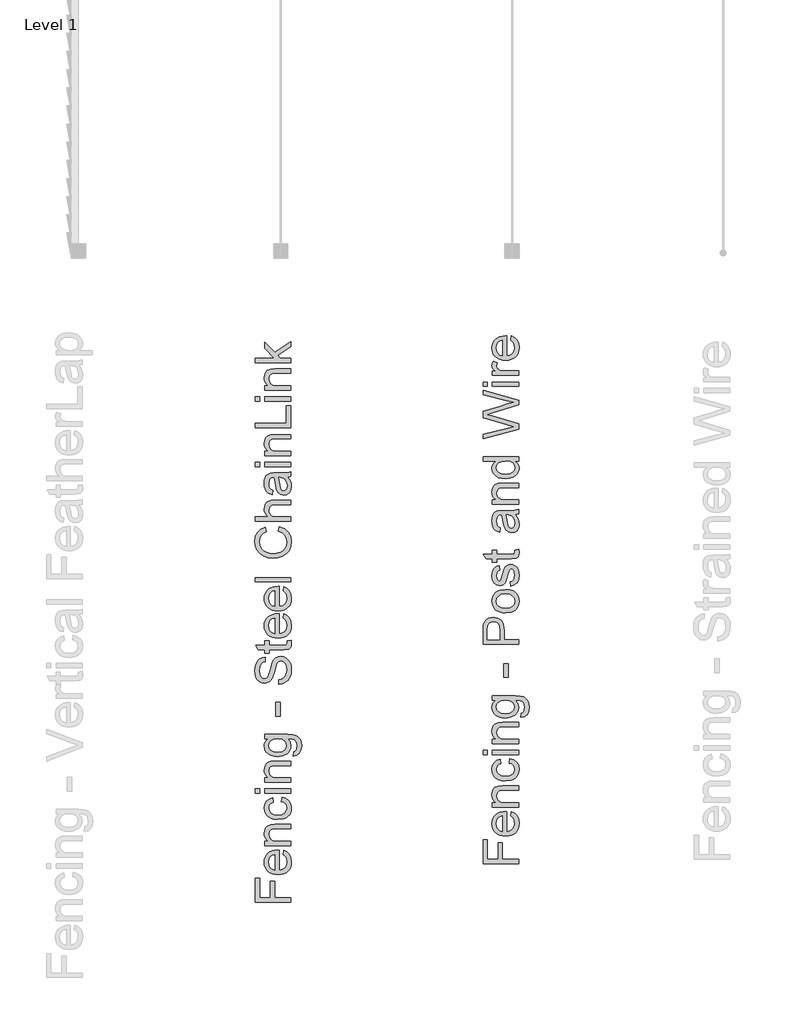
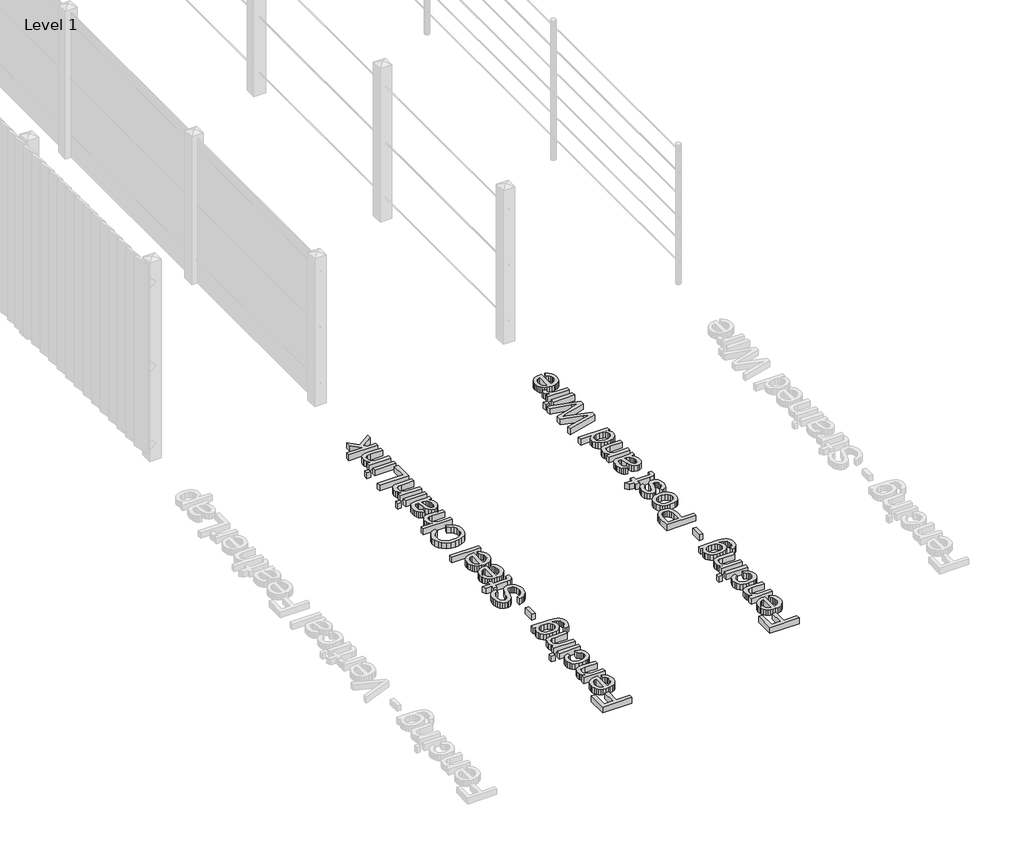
# One storey, part 5 of 7: 2 proxies.
"""IFC4 building model written with IfcOpenShell, lengths in millimetres."""

from ifc_helpers import new_model, si_unit, origin, origin_with_axes, place, context, project, spatial, polyline, outline, extrude, element, save

model = new_model("IFC4")

# Units and contexts
model_context = context("Model", 3, world=origin())
ifc_project = project(units=[si_unit("LENGTHUNIT", "METRE", prefix="MILLI")], contexts=[model_context])

# Site, building, storey
site = spatial("IfcSite", under=ifc_project)
building = spatial("IfcBuilding", under=site)
storey = spatial("IfcBuildingStorey", under=building, Name="Level 1", Elevation=0.0)

# Proxies
placement = place(None, origin())
element("IfcBuildingElementProxy", 1, Name="250mm Arial", ObjectType="250mm Arial", at=placement, inside=storey, context=model_context, shape_type="SweptSolid", body=[
    extrude(outline(polyline([(50542.9272953, -60664.7562343), (50296.7734491, -60664.7562343), (50296.7734491, -60499.3716189), (50327.5426799, -60499.3716189), (50327.5426799, -60633.9870036), (50400.619603, -60633.9870036), (50400.619603, -60518.6023882), (50431.3888337, -60518.6023882), (50431.3888337, -60633.9870036), (50542.9272953, -60633.9870036), (50542.9272953, -60664.7562343)])), origin_with_axes(), (0.0, 0.0, 1.0), 50.8),
    extrude(outline(polyline([(50489.0811414, -60334.3475805), (50492.9272953, -60304.1793113), (50515.6586655, -60315.0492031), (50532.650853, -60332.3944555), (50543.2428001, -60355.8244435), (50546.7734491, -60384.948542), (50545.2503872, -60404.0403389), (50540.6812015, -60421.0513064), (50533.065892, -60435.9814447), (50522.4044587, -60448.8307536), (50508.9936264, -60459.163536), (50493.1301198, -60466.5440949), (50474.8139389, -60470.9724302), (50454.0450837, -60472.448542), (50432.5719768, -60470.9574062), (50413.6454443, -60466.4839988), (50397.2654864, -60459.0283197), (50383.432103, -60448.5903689), (50372.4420188, -60435.7748641), (50364.5919587, -60421.1865228), (50359.8819227, -60404.8253449), (50358.3119107, -60386.6913305), (50359.8781667, -60369.1413756), (50364.5769347, -60353.2703569), (50372.4082147, -60339.0782746), (50383.3720068, -60326.5651286), (50397.1753422, -60316.3506604), (50413.525252, -60309.0546117), (50432.4217364, -60304.6769825), (50453.8647953, -60303.2177728), (50462.1580645, -60303.3980613), (50462.1580645, -60441.6793113), (50485.1899155, -60436.3532896), (50502.1220068, -60423.9809939), (50512.5336655, -60406.1249242), (50516.0042184, -60384.3475805), (50514.3966462, -60367.9713786), (50509.5739299, -60354.1793113), (50501.2355885, -60342.9713786), (50489.0811414, -60334.3475805)]), holes=[polyline([(50431.3888337, -60441.6793113), (50431.3888337, -60333.9870036), (50415.1328241, -60338.1486622), (50403.5042184, -60346.3067151), (50392.6869107, -60364.245417), (50389.0811414, -60386.8115228), (50391.9582448, -60407.5522079), (50400.5895549, -60424.7021478), (50414.0435813, -60436.6237223), (50431.3888337, -60441.6793113)])]), origin_with_axes(), (0.0, 0.0, 1.0), 50.8),
    extrude(outline(polyline([(50542.9272953, -60272.448542), (50362.1580645, -60272.448542), (50362.1580645, -60241.6793113), (50387.3984491, -60241.6793113), (50374.6730885, -60230.9897079), (50365.5835453, -60218.151667), (50360.1298193, -60203.1651887), (50358.3119107, -60186.0302728), (50364.1712857, -60156.9737824), (50370.947127, -60145.3902488), (50379.555901, -60137.1420516), (50402.182103, -60127.917292), (50431.9296991, -60126.2946959), (50542.9272953, -60126.2946959), (50542.9272953, -60157.0639266), (50436.0763337, -60157.0639266), (50408.852776, -60160.6095997), (50400.7473073, -60165.5149483), (50394.4597472, -60173.1396478), (50389.0811414, -60194.2634459), (50392.1009732, -60212.28478), (50401.1604684, -60227.6468593), (50418.6634732, -60238.1711983), (50447.0138337, -60241.6793113), (50542.9272953, -60241.6793113), (50542.9272953, -60272.448542)])), origin_with_axes(), (0.0, 0.0, 1.0), 50.8),
    extrude(outline(polyline([(50477.5426799, -59968.6023882), (50481.3888337, -59937.8331574), (50508.7551198, -59946.4118834), (50529.4357087, -59962.5326766), (50542.439014, -59984.6781093), (50546.7734491, -60011.3307536), (50545.2616553, -60028.5877397), (50540.7262736, -60044.0606213), (50533.1673043, -60057.7493984), (50522.5847472, -60069.6540709), (50509.1776709, -60079.2901135), (50493.1451438, -60086.1730012), (50453.2037376, -60091.6793113), (50425.8224275, -60089.3280492), (50402.0919587, -60082.2742632), (50382.9287977, -60070.4052728), (50369.2494107, -60053.6083978), (50361.0462857, -60033.5137463), (50358.3119107, -60011.7514266), (50362.0679203, -59985.7523281), (50373.3359491, -59964.9665709), (50391.5150357, -59950.0552127), (50416.0042184, -59941.6793113), (50419.8503722, -59972.448542), (50406.4263938, -59978.0299723), (50396.8034972, -59986.7213786), (50391.0117304, -59998.0419915), (50389.0811414, -60011.511042), (50392.8822232, -60031.3953569), (50404.2854684, -60047.1781093), (50423.9068626, -60057.4770877), (50452.3623914, -60060.9100805), (50481.2010333, -60057.5522079), (50500.8900357, -60047.4785901), (50512.2256727, -60031.9812944), (50516.0042184, -60012.3523882), (50513.6454443, -59996.4193954), (50506.5691222, -59983.3559939), (50494.5949635, -59973.8532896), (50477.5426799, -59968.6023882)])), origin_with_axes(), (0.0, 0.0, 1.0), 50.8),
    extrude(outline(polyline([(50327.5426799, -59910.9100805), (50296.7734491, -59910.9100805), (50296.7734491, -59880.1408497), (50327.5426799, -59880.1408497), (50327.5426799, -59910.9100805)])), origin_with_axes(), (0.0, 0.0, 1.0), 50.8),
    extrude(outline(polyline([(50542.9272953, -59910.9100805), (50362.1580645, -59910.9100805), (50362.1580645, -59880.1408497), (50542.9272953, -59880.1408497), (50542.9272953, -59910.9100805)])), origin_with_axes(), (0.0, 0.0, 1.0), 50.8),
    extrude(outline(polyline([(50542.9272953, -59833.9870036), (50362.1580645, -59833.9870036), (50362.1580645, -59803.2177728), (50387.3984491, -59803.2177728), (50374.6730885, -59792.5281694), (50365.5835453, -59779.6901286), (50360.1298193, -59764.7036502), (50358.3119107, -59747.5687343), (50364.1712857, -59718.5122439), (50370.947127, -59706.9287103), (50379.555901, -59698.6805132), (50402.182103, -59689.4557536), (50431.9296991, -59687.8331574), (50542.9272953, -59687.8331574), (50542.9272953, -59718.6023882), (50436.0763337, -59718.6023882), (50408.852776, -59722.1480613), (50400.7473073, -59727.0534098), (50394.4597472, -59734.6781093), (50389.0811414, -59755.8019074), (50392.1009732, -59773.8232415), (50401.1604684, -59789.1853209), (50418.6634732, -59799.7096598), (50447.0138337, -59803.2177728), (50542.9272953, -59803.2177728), (50542.9272953, -59833.9870036)])), origin_with_axes(), (0.0, 0.0, 1.0), 50.8),
    extrude(outline(polyline([(50558.3119107, -59653.2177728), (50562.1580645, -59622.448542), (50571.7734491, -59619.0531093), (50578.384026, -59612.4725805), (50583.5222472, -59599.5368834), (50585.2349876, -59582.604792), (50583.2968866, -59564.5458978), (50577.4825837, -59551.1144074), (50568.1676799, -59541.7995036), (50555.727776, -59536.0903689), (50519.8503722, -59533.9870036), (50537.1580645, -59555.651667), (50542.9272953, -59582.0639266), (50541.248359, -59598.9340438), (50536.2115501, -59613.7871838), (50527.8168686, -59626.6233467), (50516.0643145, -59637.4425324), (50486.5270549, -59652.1585781), (50451.6412376, -59657.0639266), (50426.79899, -59654.862905), (50403.9549395, -59648.2598401), (50384.5964659, -59637.4876045), (50370.2109491, -59622.7790709), (50361.2866703, -59604.6375444), (50358.3119107, -59583.5663305), (50359.994603, -59569.1770576), (50365.0426799, -59556.1174122), (50373.4561414, -59544.3873942), (50385.2349876, -59533.9870036), (50362.1580645, -59533.9870036), (50362.1580645, -59503.2177728), (50518.227776, -59503.2177728), (50554.2629323, -59505.3211382), (50577.993401, -59511.6312343), (50593.7310813, -59522.5011262), (50605.7878722, -59538.2838786), (50613.4501318, -59558.6339387), (50616.0042184, -59583.2057536), (50612.4059611, -59611.8340588), (50601.6111895, -59634.3776286), (50583.5898554, -59648.8382656), (50558.3119107, -59653.2177728)]), holes=[polyline([(50449.5378722, -59626.2946959), (50477.7605284, -59623.0119435), (50497.1640741, -59613.1636863), (50508.4095669, -59598.3574963), (50512.1580645, -59580.2009459), (50508.432103, -59562.1796117), (50497.2542184, -59547.2983016), (50478.0985693, -59537.3148281), (50450.4393145, -59533.9870036), (50423.7641342, -59537.4124843), (50404.555901, -59547.6889266), (50392.9498313, -59562.7880853), (50389.0811414, -59580.6817151), (50392.8897352, -59598.2523281), (50404.3155164, -59612.9833978), (50423.2382929, -59622.9668713), (50449.5378722, -59626.2946959)])]), origin_with_axes(), (0.0, 0.0, 1.0), 50.8),
    extrude(outline(polyline([(50469.8503722, -59376.2946959), (50439.0811414, -59376.2946959), (50439.0811414, -59280.1408497), (50469.8503722, -59280.1408497), (50469.8503722, -59376.2946959)])), origin_with_axes(), (0.0, 0.0, 1.0), 50.8),
    extrude(outline(polyline([(50542.9272953, -59145.5254651), (50296.7734491, -59145.5254651), (50296.7734491, -59054.2995036), (50299.1171991, -59017.5206574), (50303.4967063, -59001.1219194), (50310.6256126, -58987.6228209), (50320.8269347, -58976.752929), (50334.4236895, -58968.2418113), (50350.4618506, -58962.7430132), (50367.9873914, -58960.9100805), (50396.9988097, -58965.8605012), (50421.1724876, -58980.7117632), (50430.6902159, -58992.6051676), (50437.4885934, -59008.4836983), (50441.5676198, -59028.3473551), (50442.9272953, -59052.1961382), (50442.9272953, -59114.7562343), (50542.9272953, -59114.7562343), (50542.9272953, -59145.5254651)]), holes=[polyline([(50412.1580645, -59114.7562343), (50412.1580645, -59050.3932536), (50409.3335453, -59023.1095997), (50400.8599876, -59005.0807536), (50387.2632328, -58995.0296718), (50369.0691222, -58991.6793113), (50355.2470068, -58993.6549723), (50343.588353, -58999.5819555), (50334.8143145, -59008.7240829), (50329.6460453, -59020.3451766), (50327.5426799, -59051.1144074), (50327.5426799, -59114.7562343), (50412.1580645, -59114.7562343)])]), origin_with_axes(), (0.0, 0.0, 1.0), 50.8),
    extrude(outline(polyline([(50452.5426799, -58930.1408497), (50429.131472, -58928.4769375), (50408.9579443, -58923.4852007), (50392.022097, -58915.1656394), (50378.3239299, -58903.5182536), (50363.3149155, -58878.8487824), (50358.3119107, -58849.3115228), (50359.8349726, -58832.3362373), (50364.4041583, -58816.987304), (50372.0194678, -58803.2647229), (50382.680901, -58791.1684939), (50396.0278812, -58781.2958227), (50411.6998313, -58774.2439146), (50450.0186414, -58768.6023882), (50481.103377, -58771.0963786), (50504.7662376, -58778.5783497), (50522.4870909, -58790.8304531), (50535.7458049, -58807.6348401), (50544.0165381, -58827.5942752), (50546.7734491, -58849.3115228), (50545.2560212, -58866.5347049), (50540.7037376, -58882.0263665), (50533.1165982, -58895.7865078), (50522.494603, -58907.8151286), (50509.0180405, -58917.5826316), (50492.8671991, -58924.5594194), (50452.5426799, -58930.1408497)]), holes=[polyline([(50452.4825837, -58899.3716189), (50480.329639, -58895.8109218), (50500.1688818, -58885.1288305), (50512.0453842, -58869.0531093), (50516.0042184, -58849.3115228), (50512.0228482, -58829.6600805), (50500.0787376, -58813.6144074), (50479.9765741, -58802.9323161), (50451.5210453, -58799.3716189), (50424.4852881, -58802.9548521), (50404.916478, -58813.7045516), (50393.0399756, -58829.7727608), (50389.0811414, -58849.3115228), (50393.0249515, -58869.0531093), (50404.8563818, -58885.1288305), (50424.6505525, -58895.8109218), (50452.4825837, -58899.3716189)])]), origin_with_axes(), (0.0, 0.0, 1.0), 50.8),
    extrude(outline(polyline([(50489.0811414, -58745.5254651), (50485.2349876, -58714.7562343), (50498.3960453, -58709.9034699), (50508.071526, -58700.5134459), (50514.0210453, -58686.5260661), (50516.0042184, -58667.8812343), (50514.1863097, -58649.4617632), (50508.7325837, -58636.511042), (50500.8299395, -58628.8487824), (50491.665276, -58626.2946959), (50483.822728, -58628.8638064), (50477.8431607, -58636.5711382), (50469.0691222, -58668.2418113), (50454.0150357, -58714.5759459), (50446.4504323, -58726.3022079), (50436.4369107, -58734.7983016), (50424.6129924, -58739.9590588), (50411.6171991, -58741.6793113), (50388.6905164, -58736.1504651), (50371.1724876, -58721.0663305), (50362.0679203, -58701.5050324), (50358.3119107, -58675.0326766), (50359.8218265, -58655.0056334), (50364.3515741, -58637.5927728), (50371.4579443, -58623.5903689), (50380.697728, -58613.7946959), (50392.7545188, -58607.3043113), (50408.3119107, -58603.2177728), (50412.1580645, -58633.9870036), (50402.4750717, -58637.8707175), (50395.180901, -58645.5555132), (50390.6060813, -58657.1165108), (50389.0811414, -58672.6288305), (50390.5384732, -58690.2970997), (50394.9104684, -58702.0759459), (50401.2205645, -58708.7015468), (50408.4921991, -58710.9100805), (50417.446526, -58707.2442151), (50424.2373914, -58695.7658497), (50430.7878722, -58669.2634459), (50445.2710453, -58624.1011863), (50452.197127, -58612.1720997), (50461.6772953, -58603.1276286), (50473.7415982, -58597.426006), (50488.4200837, -58595.5254651), (50503.5943626, -58597.7565348), (50517.8671991, -58604.4497439), (50530.1193025, -58615.3496838), (50539.2313818, -58630.2009459), (50544.8879323, -58648.1396478), (50546.7734491, -58668.3019074), (50543.1376318, -58699.3265468), (50532.2301799, -58721.9677728), (50514.1712857, -58737.0819555), (50489.0811414, -58745.5254651)])), origin_with_axes(), (0.0, 0.0, 1.0), 50.8),
    extrude(outline(polyline([(50517.2662376, -58495.5254651), (50543.8287376, -58491.6793113), (50546.7734491, -58514.6961382), (50545.4964059, -58529.464768), (50541.665276, -58540.4773882), (50528.2638337, -58553.3379651), (50493.3479684, -58557.0639266), (50392.9272953, -58557.0639266), (50392.9272953, -58580.1408497), (50362.1580645, -58580.1408497), (50362.1580645, -58557.0639266), (50318.227776, -58557.0639266), (50300.1388337, -58526.2946959), (50362.1580645, -58526.2946959), (50362.1580645, -58495.5254651), (50392.9272953, -58495.5254651), (50392.9272953, -58526.2946959), (50492.446526, -58526.2946959), (50508.3119107, -58524.6720997), (50513.930901, -58519.4136863), (50516.0042184, -58508.9269074), (50517.2662376, -58495.5254651)])), origin_with_axes(), (0.0, 0.0, 1.0), 50.8),
    extrude(outline(polyline([(50519.8503722, -58253.2177728), (50532.4555405, -58267.9187944), (50540.7037376, -58283.0555132), (50545.2560212, -58298.9734819), (50546.7734491, -58316.0182536), (50543.1226078, -58341.7318954), (50532.1700837, -58360.6997439), (50515.5384732, -58372.3959579), (50494.8503722, -58376.2946959), (50470.5114299, -58370.4052728), (50452.8431607, -58354.9305132), (50442.7470068, -58333.386042), (50438.119603, -58306.7634459), (50427.5426799, -58253.3980613), (50420.6917184, -58253.2177728), (50406.9597472, -58255.3361622), (50397.9753722, -58261.6913305), (50391.3046991, -58275.9040709), (50389.0811414, -58295.7057536), (50390.5610092, -58314.0350805), (50395.0006126, -58326.8355613), (50403.2112496, -58335.5645276), (50416.0042184, -58341.6793113), (50412.1580645, -58372.448542), (50395.3311414, -58367.1074963), (50382.1099876, -58359.1372439), (50371.9988097, -58347.7940949), (50364.5018145, -58332.3343593), (50359.8593866, -58313.4266069), (50358.3119107, -58291.7394074), (50359.6790982, -58270.9386262), (50363.7806607, -58254.4497439), (50369.9480284, -58242.0173521), (50377.5126318, -58233.386042), (50398.3960453, -58223.9509459), (50425.3191222, -58222.448542), (50463.6003722, -58222.448542), (50517.055901, -58220.886042), (50542.9272953, -58214.7562343), (50542.9272953, -58245.5254651), (50519.8503722, -58253.2177728)]), holes=[polyline([(50458.3119107, -58253.2177728), (50467.7470068, -58302.8571959), (50472.7349876, -58329.3295516), (50480.8479684, -58341.3187343), (50492.6869107, -58345.5254651), (50501.8365501, -58343.2342992), (50509.3335453, -58336.3608016), (50514.3365501, -58325.0552127), (50516.0042184, -58309.4677728), (50514.1637736, -58292.9413305), (50508.6424395, -58278.3379651), (50500.5069227, -58266.4990228), (50490.8239299, -58258.2658497), (50467.025853, -58253.3980613), (50458.3119107, -58253.2177728)])]), origin_with_axes(), (0.0, 0.0, 1.0), 50.8),
    extrude(outline(polyline([(50542.9272953, -58180.1408497), (50362.1580645, -58180.1408497), (50362.1580645, -58149.3716189), (50387.3984491, -58149.3716189), (50374.6730885, -58138.6820156), (50365.5835453, -58125.8439747), (50360.1298193, -58110.8574963), (50358.3119107, -58093.7225805), (50364.1712857, -58064.6660901), (50370.947127, -58053.0825564), (50379.555901, -58044.8343593), (50402.182103, -58035.6095997), (50431.9296991, -58033.9870036), (50542.9272953, -58033.9870036), (50542.9272953, -58064.7562343), (50436.0763337, -58064.7562343), (50408.852776, -58068.3019074), (50400.7473073, -58073.207256), (50394.4597472, -58080.8319555), (50389.0811414, -58101.9557536), (50392.1009732, -58119.9770877), (50401.1604684, -58135.339167), (50418.6634732, -58145.863506), (50447.0138337, -58149.3716189), (50542.9272953, -58149.3716189), (50542.9272953, -58180.1408497)])), origin_with_axes(), (0.0, 0.0, 1.0), 50.8),
    extrude(outline(polyline([(50542.9272953, -57880.1408497), (50513.900853, -57880.1408497), (50528.2826138, -57889.3468293), (50538.5553001, -57900.4984218), (50544.7189119, -57913.5956274), (50546.7734491, -57928.6384459), (50543.7986895, -57948.5302728), (50534.8744107, -57966.7394074), (50520.6241102, -57982.1540709), (50501.6712857, -57993.6624843), (50478.7821631, -58000.8289507), (50452.7229684, -58003.2177728), (50426.9867905, -58001.0167512), (50403.744603, -57994.4136863), (50384.3185212, -57983.4160901), (50370.0306607, -57968.0314747), (50361.2415982, -57949.4242031), (50358.3119107, -57928.7586382), (50360.407764, -57913.7045516), (50366.6953241, -57900.3932536), (50376.3332448, -57889.1102007), (50388.4801799, -57880.1408497), (50296.7734491, -57880.1408497), (50296.7734491, -57849.3716189), (50542.9272953, -57849.3716189), (50542.9272953, -57880.1408497)]), holes=[polyline([(50452.602776, -57972.448542), (50480.4348073, -57968.9779891), (50500.228978, -57958.5663305), (50512.0604083, -57943.4371238), (50516.0042184, -57925.8139266), (50512.2406967, -57908.1982415), (50500.9501318, -57893.4521478), (50481.9221871, -57883.4686742), (50454.946526, -57880.1408497), (50425.4543385, -57883.5287704), (50405.0066222, -57893.6925324), (50393.0625116, -57908.8142271), (50389.0811414, -57927.0759459), (50392.9047592, -57944.8794314), (50404.3756126, -57959.4677728), (50424.079639, -57969.2033497), (50452.602776, -57972.448542)])]), origin_with_axes(), (0.0, 0.0, 1.0), 50.8),
    extrude(outline(polyline([(50542.9272953, -57659.167292), (50296.7734491, -57726.2946959), (50296.7734491, -57694.5639266), (50458.5522953, -57655.6216189), (50508.4921991, -57643.6023882), (50464.321526, -57630.7418113), (50296.7734491, -57581.9437343), (50296.7734491, -57536.2105613), (50418.227776, -57500.7538305), (50463.2998914, -57485.5645276), (50508.4921991, -57474.3716189), (50459.994603, -57462.7129651), (50296.7734491, -57423.4100805), (50296.7734491, -57391.6793113), (50542.9272953, -57458.8668113), (50542.9272953, -57491.7394074), (50353.0234491, -57550.7538305), (50326.5210453, -57558.9870036), (50358.432103, -57568.2418113), (50542.9272953, -57622.0278689), (50542.9272953, -57659.167292)])), origin_with_axes(), (0.0, 0.0, 1.0), 50.8),
    extrude(outline(polyline([(50327.5426799, -57364.7562343), (50296.7734491, -57364.7562343), (50296.7734491, -57333.9870036), (50327.5426799, -57333.9870036), (50327.5426799, -57364.7562343)])), origin_with_axes(), (0.0, 0.0, 1.0), 50.8),
    extrude(outline(polyline([(50542.9272953, -57364.7562343), (50362.1580645, -57364.7562343), (50362.1580645, -57333.9870036), (50542.9272953, -57333.9870036), (50542.9272953, -57364.7562343)])), origin_with_axes(), (0.0, 0.0, 1.0), 50.8),
    extrude(outline(polyline([(50542.9272953, -57287.8331574), (50362.1580645, -57287.8331574), (50362.1580645, -57260.9100805), (50388.900853, -57260.9100805), (50373.3960453, -57250.964167), (50364.2614299, -57241.7995036), (50358.3119107, -57222.5687343), (50360.6857087, -57207.2442151), (50367.807103, -57191.6793113), (50395.3912376, -57201.9557536), (50389.0811414, -57223.5903689), (50390.5985693, -57232.7775685), (50395.150853, -57240.9882055), (50411.977776, -57252.0759459), (50447.915276, -57257.0639266), (50542.9272953, -57257.0639266), (50542.9272953, -57287.8331574)])), origin_with_axes(), (0.0, 0.0, 1.0), 50.8),
    extrude(outline(polyline([(50489.0811414, -57045.886042), (50492.9272953, -57015.7177728), (50515.6586655, -57026.5876646), (50532.650853, -57043.932917), (50543.2428001, -57067.362905), (50546.7734491, -57096.4870036), (50545.2503872, -57115.5788004), (50540.6812015, -57132.589768), (50533.065892, -57147.5199062), (50522.4044587, -57160.3692151), (50508.9936264, -57170.7019975), (50493.1301198, -57178.0825564), (50474.8139389, -57182.5108918), (50454.0450837, -57183.9870036), (50432.5719768, -57182.4958677), (50413.6454443, -57178.0224603), (50397.2654864, -57170.5667812), (50383.432103, -57160.1288305), (50372.4420188, -57147.3133257), (50364.5919587, -57132.7249843), (50359.8819227, -57116.3638064), (50358.3119107, -57098.229792), (50359.8781667, -57080.6798371), (50364.5769347, -57064.8088185), (50372.4082147, -57050.6167361), (50383.3720068, -57038.1035901), (50397.1753422, -57027.8891219), (50413.525252, -57020.5930733), (50432.4217364, -57016.2154441), (50453.8647953, -57014.7562343), (50462.1580645, -57014.9365228), (50462.1580645, -57153.2177728), (50485.1899155, -57147.8917512), (50502.1220068, -57135.5194555), (50512.5336655, -57117.6633858), (50516.0042184, -57095.886042), (50514.3966462, -57079.5098401), (50509.5739299, -57065.7177728), (50501.2355885, -57054.5098401), (50489.0811414, -57045.886042)]), holes=[polyline([(50431.3888337, -57153.2177728), (50431.3888337, -57045.5254651), (50415.1328241, -57049.6871238), (50403.5042184, -57057.8451766), (50392.6869107, -57075.7838786), (50389.0811414, -57098.3499843), (50391.9582448, -57119.0906694), (50400.5895549, -57136.2406093), (50414.0435813, -57148.1621838), (50431.3888337, -57153.2177728)])]), origin_with_axes(), (0.0, 0.0, 1.0), 50.8),
])
element("IfcBuildingElementProxy", 2, Name="250mm Arial", ObjectType="250mm Arial", at=placement, inside=storey, context=model_context, shape_type="SweptSolid", body=[
    extrude(outline(polyline([(48968.7739779, -60931.7081769), (48722.6201317, -60931.7081769), (48722.6201317, -60766.3235615), (48753.3893625, -60766.3235615), (48753.3893625, -60900.9389461), (48826.4662856, -60900.9389461), (48826.4662856, -60785.5543307), (48857.2355164, -60785.5543307), (48857.2355164, -60900.9389461), (48968.7739779, -60900.9389461), (48968.7739779, -60931.7081769)])), origin_with_axes(), (0.0, 0.0, 1.0), 50.8),
    extrude(outline(polyline([(48914.9278241, -60601.299523), (48918.7739779, -60571.1312538), (48941.5053481, -60582.0011456), (48958.4975356, -60599.346398), (48969.0894827, -60622.776386), (48972.6201317, -60651.9004846), (48971.0970698, -60670.9922814), (48966.5278842, -60688.003249), (48958.9125747, -60702.9333872), (48948.2511414, -60715.7826961), (48934.840309, -60726.1154786), (48918.9768024, -60733.4960375), (48900.6606215, -60737.9243728), (48879.8917664, -60739.4004846), (48858.4186594, -60737.9093487), (48839.4921269, -60733.4359413), (48823.112169, -60725.9802622), (48809.2787856, -60715.5423115), (48798.2887015, -60702.7268067), (48790.4386414, -60688.1384653), (48785.7286053, -60671.7772875), (48784.1585933, -60653.643273), (48785.7248493, -60636.0933181), (48790.4236173, -60620.2222995), (48798.2548974, -60606.0302171), (48809.2186894, -60593.5170711), (48823.0220248, -60583.302603), (48839.3719346, -60576.0065543), (48858.268419, -60571.6289251), (48879.7114779, -60570.1697153), (48888.0047471, -60570.3500038), (48888.0047471, -60708.6312538), (48911.0365981, -60703.3052322), (48927.9686894, -60690.9329365), (48938.3803481, -60673.0768668), (48941.850901, -60651.299523), (48940.2433289, -60634.9233211), (48935.4206125, -60621.1312538), (48927.0822712, -60609.9233211), (48914.9278241, -60601.299523)]), holes=[polyline([(48857.2355164, -60708.6312538), (48857.2355164, -60600.9389461), (48840.9795067, -60605.1006048), (48829.350901, -60613.2586576), (48818.5335933, -60631.1973596), (48814.9278241, -60653.7634653), (48817.8049274, -60674.5041504), (48826.4362375, -60691.6540903), (48839.890264, -60703.5756649), (48857.2355164, -60708.6312538)])]), origin_with_axes(), (0.0, 0.0, 1.0), 50.8),
    extrude(outline(polyline([(48968.7739779, -60539.4004846), (48788.0047471, -60539.4004846), (48788.0047471, -60508.6312538), (48813.2451317, -60508.6312538), (48800.5197712, -60497.9416504), (48791.4302279, -60485.1036096), (48785.9765019, -60470.1171312), (48784.1585933, -60452.9822153), (48790.0179683, -60423.925725), (48796.7938096, -60412.3421913), (48805.4025837, -60404.0939942), (48828.0287856, -60394.8692346), (48857.7763817, -60393.2466384), (48968.7739779, -60393.2466384), (48968.7739779, -60424.0158692), (48861.9230164, -60424.0158692), (48834.6994587, -60427.5615423), (48826.5939899, -60432.4668908), (48820.3064298, -60440.0915903), (48814.9278241, -60461.2153884), (48817.9476558, -60479.2367225), (48827.007151, -60494.5988019), (48844.5101558, -60505.1231408), (48872.8605164, -60508.6312538), (48968.7739779, -60508.6312538), (48968.7739779, -60539.4004846)])), origin_with_axes(), (0.0, 0.0, 1.0), 50.8),
    extrude(outline(polyline([(48903.3893625, -60235.5543307), (48907.2355164, -60204.7851), (48934.6018024, -60213.3638259), (48955.2823914, -60229.4846192), (48968.2856967, -60251.6300519), (48972.6201317, -60278.2826961), (48971.1083379, -60295.5396823), (48966.5729563, -60311.0125639), (48959.0139869, -60324.7013409), (48948.4314298, -60336.6060134), (48935.0243535, -60346.2420561), (48918.9918265, -60353.1249437), (48879.0504202, -60358.6312538), (48851.6691101, -60356.2799918), (48827.9386414, -60349.2262057), (48808.7754803, -60337.3572153), (48795.0960933, -60320.5603403), (48786.8929683, -60300.4656889), (48784.1585933, -60278.7033692), (48787.9146029, -60252.7042706), (48799.1826317, -60231.9185134), (48817.3617183, -60217.0071552), (48841.850901, -60208.6312538), (48845.6970548, -60239.4004846), (48832.2730765, -60244.9819149), (48822.6501798, -60253.6733211), (48816.858413, -60264.9939341), (48814.9278241, -60278.4629846), (48818.7289058, -60298.3472995), (48830.132151, -60314.1300519), (48849.7535452, -60324.4290302), (48878.2090741, -60327.862023), (48907.0477159, -60324.5041504), (48926.7367183, -60314.4305326), (48938.0723553, -60298.933237), (48941.850901, -60279.3043307), (48939.4921269, -60263.3713379), (48932.4158048, -60250.3079365), (48920.4416462, -60240.8052322), (48903.3893625, -60235.5543307)])), origin_with_axes(), (0.0, 0.0, 1.0), 50.8),
    extrude(outline(polyline([(48753.3893625, -60177.862023), (48722.6201317, -60177.862023), (48722.6201317, -60147.0927923), (48753.3893625, -60147.0927923), (48753.3893625, -60177.862023)])), origin_with_axes(), (0.0, 0.0, 1.0), 50.8),
    extrude(outline(polyline([(48968.7739779, -60177.862023), (48788.0047471, -60177.862023), (48788.0047471, -60147.0927923), (48968.7739779, -60147.0927923), (48968.7739779, -60177.862023)])), origin_with_axes(), (0.0, 0.0, 1.0), 50.8),
    extrude(outline(polyline([(48968.7739779, -60100.9389461), (48788.0047471, -60100.9389461), (48788.0047471, -60070.1697153), (48813.2451317, -60070.1697153), (48800.5197712, -60059.480112), (48791.4302279, -60046.6420711), (48785.9765019, -60031.6555927), (48784.1585933, -60014.5206769), (48790.0179683, -59985.4641865), (48796.7938096, -59973.8806528), (48805.4025837, -59965.6324557), (48828.0287856, -59956.4076961), (48857.7763817, -59954.7851), (48968.7739779, -59954.7851), (48968.7739779, -59985.5543307), (48861.9230164, -59985.5543307), (48834.6994587, -59989.1000038), (48826.5939899, -59994.0053524), (48820.3064298, -60001.6300519), (48814.9278241, -60022.75385), (48817.9476558, -60040.7751841), (48827.007151, -60056.1372634), (48844.5101558, -60066.6616024), (48872.8605164, -60070.1697153), (48968.7739779, -60070.1697153), (48968.7739779, -60100.9389461)])), origin_with_axes(), (0.0, 0.0, 1.0), 50.8),
    extrude(outline(polyline([(48984.1585933, -59920.1697153), (48988.0047471, -59889.4004846), (48997.6201317, -59886.0050519), (49004.2307087, -59879.424523), (49009.3689298, -59866.4888259), (49011.0816702, -59849.5567346), (49009.1435692, -59831.4978403), (49003.3292664, -59818.06635), (48994.0143625, -59808.7514461), (48981.5744587, -59803.0423115), (48945.6970548, -59800.9389461), (48963.0047471, -59822.6036096), (48968.7739779, -59849.0158692), (48967.0950416, -59865.8859864), (48962.0582327, -59880.7391264), (48953.6635512, -59893.5752893), (48941.9109971, -59904.394475), (48912.3737375, -59919.1105206), (48877.4879202, -59924.0158692), (48852.6456726, -59921.8148475), (48829.8016221, -59915.2117826), (48810.4431486, -59904.4395471), (48796.0576317, -59889.7310134), (48787.1333529, -59871.589487), (48784.1585933, -59850.518273), (48785.8412856, -59836.1290002), (48790.8893625, -59823.0693548), (48799.3028241, -59811.3393367), (48811.0816702, -59800.9389461), (48788.0047471, -59800.9389461), (48788.0047471, -59770.1697153), (48944.0744587, -59770.1697153), (48980.1096149, -59772.2730807), (49003.8400837, -59778.5831769), (49019.577764, -59789.4530687), (49031.6345548, -59805.2358211), (49039.2968144, -59825.5858812), (49041.850901, -59850.1576961), (49038.2526438, -59878.7860014), (49027.4578721, -59901.3295711), (49009.436538, -59915.7902081), (48984.1585933, -59920.1697153)]), holes=[polyline([(48875.3845548, -59893.2466384), (48903.6072111, -59889.963886), (48923.0107567, -59880.1156288), (48934.2562495, -59865.3094389), (48938.0047471, -59847.1528884), (48934.2787856, -59829.1315543), (48923.100901, -59814.2502442), (48903.9452519, -59804.2667706), (48876.2859971, -59800.9389461), (48849.6108168, -59804.3644269), (48830.4025837, -59814.6408692), (48818.796514, -59829.7400278), (48814.9278241, -59847.6336576), (48818.7364178, -59865.2042706), (48830.1621991, -59879.9353403), (48849.0849755, -59889.9188139), (48875.3845548, -59893.2466384)])]), origin_with_axes(), (0.0, 0.0, 1.0), 50.8),
    extrude(outline(polyline([(48895.6970548, -59643.2466384), (48864.9278241, -59643.2466384), (48864.9278241, -59547.0927923), (48895.6970548, -59547.0927923), (48895.6970548, -59643.2466384)])), origin_with_axes(), (0.0, 0.0, 1.0), 50.8),
    extrude(outline(polyline([(48884.1585933, -59424.0158692), (48884.1585933, -59393.2466384), (48901.233413, -59389.7159894), (48914.9578721, -59383.330773), (48925.8503, -59373.3698355), (48934.429026, -59359.112023), (48939.9954322, -59341.6841384), (48941.850901, -59322.2129846), (48936.2319106, -59290.0615423), (48929.5612375, -59277.8995831), (48920.7871991, -59269.2983211), (48910.7135813, -59264.182636), (48900.1441702, -59262.4774076), (48880.9434491, -59267.5855807), (48873.3487976, -59275.3680326), (48866.9710933, -59288.4990423), (48855.2222952, -59333.300725), (48840.0480164, -59381.5278884), (48829.6964539, -59396.8448956), (48817.1513817, -59407.6997634), (48802.6832327, -59414.167612), (48786.5624394, -59416.3235615), (48768.5411053, -59413.6567947), (48751.7367183, -59405.6564942), (48737.4939298, -59392.5329966), (48727.1573914, -59374.4966384), (48720.8698313, -59352.846999), (48718.7739779, -59328.8836576), (48720.9674875, -59302.9221192), (48727.5480164, -59280.205773), (48738.3803481, -59261.5459173), (48753.3292664, -59247.75385), (48771.4632808, -59239.0248836), (48791.850901, -59235.5543307), (48791.850901, -59266.3235615), (48773.491526, -59271.9726), (48760.2403241, -59283.7514461), (48752.2174875, -59302.1558932), (48749.5432087, -59327.6817346), (48752.1874394, -59353.8085375), (48760.1201317, -59371.7322153), (48771.7938096, -59382.0988019), (48785.6609971, -59385.5543307), (48797.4849154, -59383.1054125), (48806.9951317, -59375.7586576), (48815.4987375, -59358.3908692), (48824.1826317, -59325.518273), (48839.6273433, -59271.0711576), (48850.7902039, -59253.5305927), (48864.5672471, -59241.2935134), (48880.8082327, -59234.104511), (48899.3629202, -59231.7081769), (48918.3307688, -59234.4650879), (48936.1718144, -59242.7358211), (48951.5263817, -59256.1823355), (48963.0347952, -59274.4665903), (48970.2237976, -59296.4542706), (48972.6201317, -59321.0110615), (48970.0359971, -59351.1567947), (48962.2835933, -59375.9689942), (48949.3328721, -59395.7331168), (48931.1537856, -59410.7346192), (48909.0083529, -59420.3650278), (48884.1585933, -59424.0158692)])), origin_with_axes(), (0.0, 0.0, 1.0), 50.8),
    extrude(outline(polyline([(48943.1129202, -59124.0158692), (48969.6754202, -59120.1697153), (48972.6201317, -59143.1865423), (48971.3430885, -59157.9551721), (48967.5119587, -59168.9677923), (48954.1105164, -59181.8283692), (48919.194651, -59185.5543307), (48818.7739779, -59185.5543307), (48818.7739779, -59208.6312538), (48788.0047471, -59208.6312538), (48788.0047471, -59185.5543307), (48744.0744587, -59185.5543307), (48725.9855164, -59154.7851), (48788.0047471, -59154.7851), (48788.0047471, -59124.0158692), (48818.7739779, -59124.0158692), (48818.7739779, -59154.7851), (48918.2932087, -59154.7851), (48934.1585933, -59153.1625038), (48939.7775837, -59147.9040903), (48941.850901, -59137.4173115), (48943.1129202, -59124.0158692)])), origin_with_axes(), (0.0, 0.0, 1.0), 50.8),
    extrude(outline(polyline([(48914.9278241, -58966.6841384), (48918.7739779, -58936.5158692), (48941.5053481, -58947.385761), (48958.4975356, -58964.7310134), (48969.0894827, -58988.1610014), (48972.6201317, -59017.2851), (48971.0970698, -59036.3768968), (48966.5278842, -59053.3878644), (48958.9125747, -59068.3180026), (48948.2511414, -59081.1673115), (48934.840309, -59091.5000939), (48918.9768024, -59098.8806528), (48900.6606215, -59103.3089882), (48879.8917664, -59104.7851), (48858.4186594, -59103.2939641), (48839.4921269, -59098.8205567), (48823.112169, -59091.3648776), (48809.2787856, -59080.9269269), (48798.2887015, -59068.1114221), (48790.4386414, -59053.5230807), (48785.7286053, -59037.1619028), (48784.1585933, -59019.0278884), (48785.7248493, -59001.4779335), (48790.4236173, -58985.6069149), (48798.2548974, -58971.4148325), (48809.2186894, -58958.9016865), (48823.0220248, -58948.6872183), (48839.3719346, -58941.3911697), (48858.268419, -58937.0135405), (48879.7114779, -58935.5543307), (48888.0047471, -58935.7346192), (48888.0047471, -59074.0158692), (48911.0365981, -59068.6898475), (48927.9686894, -59056.3175519), (48938.3803481, -59038.4614822), (48941.850901, -59016.6841384), (48940.2433289, -59000.3079365), (48935.4206125, -58986.5158692), (48927.0822712, -58975.3079365), (48914.9278241, -58966.6841384)]), holes=[polyline([(48857.2355164, -59074.0158692), (48857.2355164, -58966.3235615), (48840.9795067, -58970.4852201), (48829.350901, -58978.643273), (48818.5335933, -58996.581975), (48814.9278241, -59019.1480807), (48817.8049274, -59039.8887658), (48826.4362375, -59057.0387057), (48839.890264, -59068.9602802), (48857.2355164, -59074.0158692)])]), origin_with_axes(), (0.0, 0.0, 1.0), 50.8),
    extrude(outline(polyline([(48914.9278241, -58778.2226), (48918.7739779, -58748.0543307), (48941.5053481, -58758.9242225), (48958.4975356, -58776.269475), (48969.0894827, -58799.6994629), (48972.6201317, -58828.8235615), (48971.0970698, -58847.9153584), (48966.5278842, -58864.9263259), (48958.9125747, -58879.8564641), (48948.2511414, -58892.705773), (48934.840309, -58903.0385555), (48918.9768024, -58910.4191144), (48900.6606215, -58914.8474497), (48879.8917664, -58916.3235615), (48858.4186594, -58914.8324257), (48839.4921269, -58910.3590182), (48823.112169, -58902.9033391), (48809.2787856, -58892.4653884), (48798.2887015, -58879.6498836), (48790.4386414, -58865.0615423), (48785.7286053, -58848.7003644), (48784.1585933, -58830.56635), (48785.7248493, -58813.016395), (48790.4236173, -58797.1453764), (48798.2548974, -58782.9532941), (48809.2186894, -58770.440148), (48823.0220248, -58760.2256799), (48839.3719346, -58752.9296312), (48858.268419, -58748.552002), (48879.7114779, -58747.0927923), (48888.0047471, -58747.2730807), (48888.0047471, -58885.5543307), (48911.0365981, -58880.2283091), (48927.9686894, -58867.8560134), (48938.3803481, -58849.9999437), (48941.850901, -58828.2226), (48940.2433289, -58811.846398), (48935.4206125, -58798.0543307), (48927.0822712, -58786.846398), (48914.9278241, -58778.2226)]), holes=[polyline([(48857.2355164, -58885.5543307), (48857.2355164, -58777.862023), (48840.9795067, -58782.0236817), (48829.350901, -58790.1817346), (48818.5335933, -58808.1204365), (48814.9278241, -58830.6865423), (48817.8049274, -58851.4272274), (48826.4362375, -58868.5771673), (48839.890264, -58880.4987418), (48857.2355164, -58885.5543307)])]), origin_with_axes(), (0.0, 0.0, 1.0), 50.8),
    extrude(outline(polyline([(48968.7739779, -58716.3235615), (48722.6201317, -58716.3235615), (48722.6201317, -58685.5543307), (48968.7739779, -58685.5543307), (48968.7739779, -58716.3235615)])), origin_with_axes(), (0.0, 0.0, 1.0), 50.8),
    extrude(outline(polyline([(48881.2739779, -58366.3235615), (48889.2066702, -58335.5543307), (48925.061538, -58349.7520471), (48951.2559491, -58372.0326961), (48967.2790861, -58401.299523), (48972.6201317, -58436.455773), (48968.5786654, -58472.1453764), (48956.4542664, -58500.488225), (48936.6676077, -58522.2129846), (48909.6393625, -58538.0483211), (48877.8635212, -58547.7162899), (48843.8340741, -58550.9389461), (48807.9416462, -58547.2956168), (48776.9470548, -58536.3656288), (48751.8343745, -58518.7198956), (48733.5876798, -58494.9293307), (48722.4774034, -58466.7141865), (48718.7739779, -58435.7947153), (48723.5666462, -58402.058237), (48737.944651, -58374.1661096), (48761.0215741, -58352.9897274), (48791.9109971, -58339.4004846), (48799.2427279, -58370.1697153), (48776.8043265, -58380.8367826), (48761.4121991, -58395.4101), (48752.5104563, -58414.0699557), (48749.5432087, -58436.9966384), (48752.8334731, -58463.4239221), (48762.7042664, -58485.1336576), (48778.1189298, -58501.6075158), (48798.0408048, -58512.3271673), (48820.5618385, -58518.2090783), (48843.7739779, -58520.1697153), (48872.1994587, -58517.8485014), (48896.7787856, -58510.8848596), (48916.5729563, -58499.0158692), (48930.6429683, -58481.9786096), (48939.0489178, -58461.5534293), (48941.850901, -58439.5206769), (48938.0347952, -58413.8370831), (48926.5864779, -58392.4353403), (48907.6261414, -58376.276987), (48881.2739779, -58366.3235615)])), origin_with_axes(), (0.0, 0.0, 1.0), 50.8),
    extrude(outline(polyline([(48968.7739779, -58297.0927923), (48722.6201317, -58297.0927923), (48722.6201317, -58266.3235615), (48813.1249394, -58266.3235615), (48800.452163, -58255.0217286), (48791.4001798, -58242.3301721), (48785.9689899, -58228.248892), (48784.1585933, -58212.7778884), (48786.1342543, -58194.1931528), (48792.0612375, -58178.2226), (48801.4737976, -58165.6474798), (48813.9061894, -58157.2490423), (48830.9885212, -58152.5164701), (48854.350901, -58150.9389461), (48968.7739779, -58150.9389461), (48968.7739779, -58181.7081769), (48857.5359971, -58181.7081769), (48838.2751798, -58184.1570951), (48825.0840741, -58191.50385), (48817.4668866, -58203.3427923), (48814.9278241, -58219.268273), (48816.6405644, -58232.2715783), (48821.7787856, -58244.4786096), (48829.8466942, -58254.5897875), (48840.3484971, -58261.3055326), (48872.7403241, -58266.3235615), (48968.7739779, -58266.3235615), (48968.7739779, -58297.0927923)])), origin_with_axes(), (0.0, 0.0, 1.0), 50.8),
    extrude(outline(polyline([(48945.6970548, -57993.2466384), (48958.3022231, -58007.94766), (48966.5504202, -58023.0843788), (48971.1027039, -58039.0023475), (48972.6201317, -58056.0471192), (48968.9692904, -58081.760761), (48958.0167664, -58100.7286096), (48941.3851558, -58112.4248235), (48920.6970548, -58116.3235615), (48896.3581125, -58110.4341384), (48878.6898433, -58094.9593788), (48868.5936894, -58073.4149076), (48863.9662856, -58046.7923115), (48853.3893625, -57993.4269269), (48846.538401, -57993.2466384), (48832.8064298, -57995.3650278), (48823.8220548, -58001.7201961), (48817.1513817, -58015.9329365), (48814.9278241, -58035.7346192), (48816.4076918, -58054.0639461), (48820.8472952, -58066.8644269), (48829.0579322, -58075.5933932), (48841.850901, -58081.7081769), (48838.0047471, -58112.4774076), (48821.1778241, -58107.136362), (48807.9566702, -58099.1661096), (48797.8454923, -58087.8229605), (48790.3484971, -58072.363225), (48785.7060692, -58053.4554725), (48784.1585933, -58031.768273), (48785.5257808, -58010.9674918), (48789.6273433, -57994.4786096), (48795.7947111, -57982.0462177), (48803.3593144, -57973.4149076), (48824.2427279, -57963.9798115), (48851.1658048, -57962.4774076), (48889.4470548, -57962.4774076), (48942.9025837, -57960.9149076), (48968.7739779, -57954.7851), (48968.7739779, -57985.5543307), (48945.6970548, -57993.2466384)]), holes=[polyline([(48884.1585933, -57993.2466384), (48893.5936894, -58042.8860615), (48898.5816702, -58069.3584173), (48906.694651, -58081.3476), (48918.5335933, -58085.5543307), (48927.6832327, -58083.2631649), (48935.1802279, -58076.3896673), (48940.1832327, -58065.0840783), (48941.850901, -58049.4966384), (48940.0104563, -58032.9701961), (48934.4891221, -58018.3668307), (48926.3536053, -58006.5278884), (48916.6706125, -57998.2947153), (48892.8725356, -57993.4269269), (48884.1585933, -57993.2466384)])]), origin_with_axes(), (0.0, 0.0, 1.0), 50.8),
    extrude(outline(polyline([(48753.3893625, -57920.1697153), (48722.6201317, -57920.1697153), (48722.6201317, -57889.4004846), (48753.3893625, -57889.4004846), (48753.3893625, -57920.1697153)])), origin_with_axes(), (0.0, 0.0, 1.0), 50.8),
    extrude(outline(polyline([(48968.7739779, -57920.1697153), (48788.0047471, -57920.1697153), (48788.0047471, -57889.4004846), (48968.7739779, -57889.4004846), (48968.7739779, -57920.1697153)])), origin_with_axes(), (0.0, 0.0, 1.0), 50.8),
    extrude(outline(polyline([(48968.7739779, -57843.2466384), (48788.0047471, -57843.2466384), (48788.0047471, -57812.4774076), (48813.2451317, -57812.4774076), (48800.5197712, -57801.7878043), (48791.4302279, -57788.9497634), (48785.9765019, -57773.963285), (48784.1585933, -57756.8283692), (48790.0179683, -57727.7718788), (48796.7938096, -57716.1883451), (48805.4025837, -57707.940148), (48828.0287856, -57698.7153884), (48857.7763817, -57697.0927923), (48968.7739779, -57697.0927923), (48968.7739779, -57727.862023), (48861.9230164, -57727.862023), (48834.6994587, -57731.4076961), (48826.5939899, -57736.3130447), (48820.3064298, -57743.9377442), (48814.9278241, -57765.0615423), (48817.9476558, -57783.0828764), (48827.007151, -57798.4449557), (48844.5101558, -57808.9692947), (48872.8605164, -57812.4774076), (48968.7739779, -57812.4774076), (48968.7739779, -57843.2466384)])), origin_with_axes(), (0.0, 0.0, 1.0), 50.8),
    extrude(outline(polyline([(48968.7739779, -57650.9389461), (48722.6201317, -57650.9389461), (48722.6201317, -57620.1697153), (48938.0047471, -57620.1697153), (48938.0047471, -57497.0927923), (48968.7739779, -57497.0927923), (48968.7739779, -57650.9389461)])), origin_with_axes(), (0.0, 0.0, 1.0), 50.8),
    extrude(outline(polyline([(48753.3893625, -57466.3235615), (48722.6201317, -57466.3235615), (48722.6201317, -57435.5543307), (48753.3893625, -57435.5543307), (48753.3893625, -57466.3235615)])), origin_with_axes(), (0.0, 0.0, 1.0), 50.8),
    extrude(outline(polyline([(48968.7739779, -57466.3235615), (48788.0047471, -57466.3235615), (48788.0047471, -57435.5543307), (48968.7739779, -57435.5543307), (48968.7739779, -57466.3235615)])), origin_with_axes(), (0.0, 0.0, 1.0), 50.8),
    extrude(outline(polyline([(48968.7739779, -57389.4004846), (48788.0047471, -57389.4004846), (48788.0047471, -57358.6312538), (48813.2451317, -57358.6312538), (48800.5197712, -57347.9416504), (48791.4302279, -57335.1036096), (48785.9765019, -57320.1171312), (48784.1585933, -57302.9822153), (48790.0179683, -57273.925725), (48796.7938096, -57262.3421913), (48805.4025837, -57254.0939942), (48828.0287856, -57244.8692346), (48857.7763817, -57243.2466384), (48968.7739779, -57243.2466384), (48968.7739779, -57274.0158692), (48861.9230164, -57274.0158692), (48834.6994587, -57277.5615423), (48826.5939899, -57282.4668908), (48820.3064298, -57290.0915903), (48814.9278241, -57311.2153884), (48817.9476558, -57329.2367225), (48827.007151, -57344.5988019), (48844.5101558, -57355.1231408), (48872.8605164, -57358.6312538), (48968.7739779, -57358.6312538), (48968.7739779, -57389.4004846)])), origin_with_axes(), (0.0, 0.0, 1.0), 50.8),
    extrude(outline(polyline([(48968.7739779, -57200.9389461), (48722.6201317, -57200.9389461), (48722.6201317, -57170.1697153), (48854.8917664, -57170.1697153), (48788.0047471, -57101.1793307), (48788.0047471, -57058.6312538), (48855.7331125, -57128.4629846), (48968.7739779, -57054.7851), (48968.7739779, -57090.7226), (48877.1273433, -57150.518273), (48896.1778241, -57170.1697153), (48968.7739779, -57170.1697153), (48968.7739779, -57200.9389461)])), origin_with_axes(), (0.0, 0.0, 1.0), 50.8),
])

save(model, "model.ifc")
